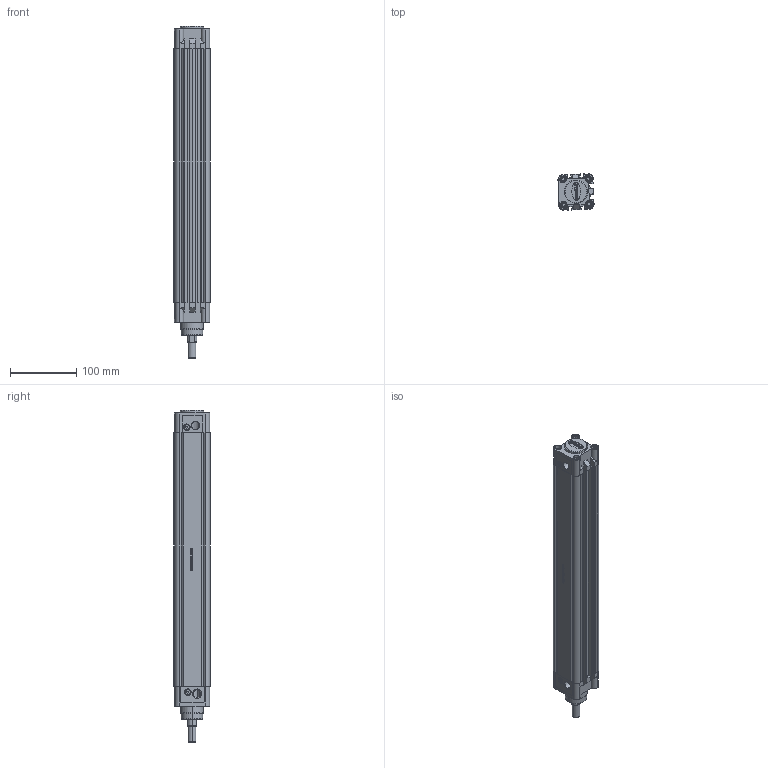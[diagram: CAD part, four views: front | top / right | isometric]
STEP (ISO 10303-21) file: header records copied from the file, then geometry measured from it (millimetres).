
FILE_DESCRIPTION (( 'STEP AP214' ), '1' );
FILE_NAME ('RIC_40_350_WEB.STEP', '2021-01-10T10:51:58', ( '' ), ( '' ), 'SwSTEP 2.0', 'SolidWorks 2021', '' );
FILE_SCHEMA (( 'AUTOMOTIVE_DESIGN' ));
Length unit declared in the file: millimetre
Products named in the file (8): 16_K_MIL_WEB; RIC_40_BORU_WEB_RIC 40-250; ric40bogazkecesi; ric40arkakapak; m6kapakcivatasi; RIC_40_350_WEB; yastýklama civatasý; ric40onkapak
Assembly tree (15 placements, depth 2):
  RIC_40_350_WEB
    ric40arkakapak
    ric40onkapak
    RIC_40_BORU_WEB_RIC 40-250
    ric40bogazkecesi
    yastýklama civatasý  x2
    m6kapakcivatasi  x8
    16_K_MIL_WEB
Bounding box: 54.22 x 54.22 x 499.5 mm (x, y, z)
Volume: 522852.9 mm3; surface area: 249098.6 mm2
Topology: 22 solids, 22 shells, 1035 faces, 2485 edges, 1585 vertices
Faces by surface type: plane 553, cylinder 227, cone 131, bspline 98, torus 26
Entity records: 31879 total; most frequent: CARTESIAN_POINT 10352, ORIENTED_EDGE 3982, DIRECTION 3656, EDGE_CURVE 1991, VERTEX_POINT 1289, VECTOR 1264, LINE 1264, AXIS2_PLACEMENT_3D 1196
